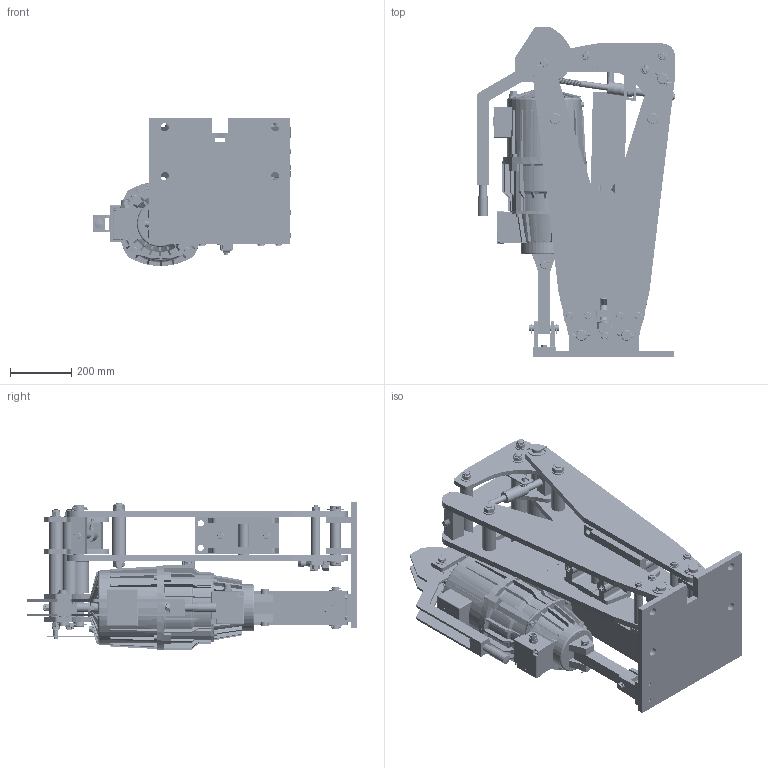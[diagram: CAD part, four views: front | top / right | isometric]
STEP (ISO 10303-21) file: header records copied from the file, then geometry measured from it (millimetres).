
FILE_DESCRIPTION((''),'2;1');
FILE_NAME('4459_375_502_E00001','2017-04-10T',('bahs'),(''),'CREO PARAMETRIC BY PTC INC, 2016130','CREO PARAMETRIC BY PTC INC, 2016130','');
FILE_SCHEMA(('CONFIG_CONTROL_DESIGN'));
Products named in the file (1): 4459_375_502_E00001
Bounding box: 646.98 x 1077 x 483 mm (x, y, z)
Volume: 372500.6 mm3; surface area: 6166597.3 mm2
Topology: 26 solids, 688 shells, 5196 faces, 17526 edges, 12149 vertices
Faces by surface type: plane 2294, cylinder 1617, cone 1025, torus 238, bspline 18, sphere 4
Entity records: 307384 total; most frequent: CARTESIAN_POINT 107369, ORIENTED_EDGE 29148, DIRECTION 27147, PRESENTATION_STYLE_ASSIGNMENT 18180, STYLED_ITEM 18180, CURVE_STYLE 17511, EDGE_CURVE 17511, VERTEX_POINT 12146
